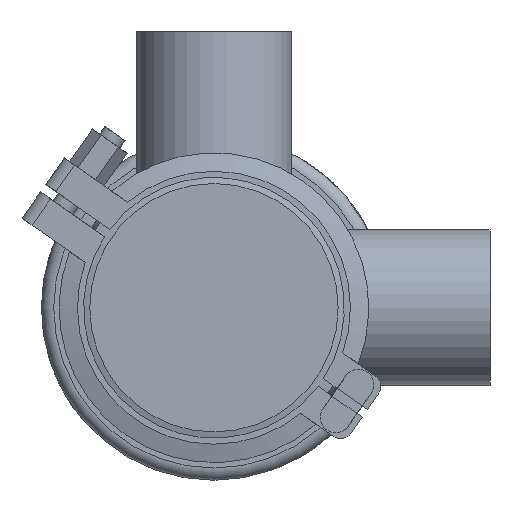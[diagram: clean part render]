
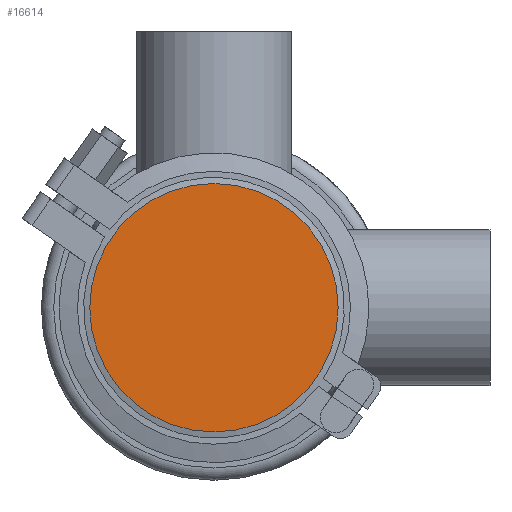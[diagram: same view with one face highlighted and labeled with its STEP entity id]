
A CAD part, front view. The second image highlights one B-rep face of the part: STEP entity #16614.
In plain terms, the highlighted planar face has unit normal (0, -1, 0).
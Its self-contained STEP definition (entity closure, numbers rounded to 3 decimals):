
#2775 = AXIS2_PLACEMENT_3D ( 'NONE', #6349, #8181, #13070 ) ;
#3237 = CIRCLE ( 'NONE', #13494, 40.5 ) ;
#4145 = DIRECTION ( 'NONE',  ( 0., 1., 0. ) ) ;
#4390 = ORIENTED_EDGE ( 'NONE', *, *, #7877, .F. ) ;
#6349 = CARTESIAN_POINT ( 'NONE',  ( -40.5, 0., 0. ) ) ;
#7877 = EDGE_CURVE ( 'NONE', #16840, #16840, #3237, .T. ) ;
#8181 = DIRECTION ( 'NONE',  ( 0., -1., 0. ) ) ;
#9274 = DIRECTION ( 'NONE',  ( 0., 0., 1. ) ) ;
#10259 = CARTESIAN_POINT ( 'NONE',  ( 0., 0., 40.5 ) ) ;
#13070 = DIRECTION ( 'NONE',  ( 0., 0., -1. ) ) ;
#13494 = AXIS2_PLACEMENT_3D ( 'NONE', #13755, #4145, #9274 ) ;
#13755 = CARTESIAN_POINT ( 'NONE',  ( 0., 0., 0. ) ) ;
#16614 = ADVANCED_FACE ( 'NONE', ( #20890 ), #20993, .T. ) ;
#16840 = VERTEX_POINT ( 'NONE', #10259 ) ;
#20890 = FACE_OUTER_BOUND ( 'NONE', #20941, .T. ) ;
#20941 = EDGE_LOOP ( 'NONE', ( #4390 ) ) ;
#20993 = PLANE ( 'NONE',  #2775 ) ;
